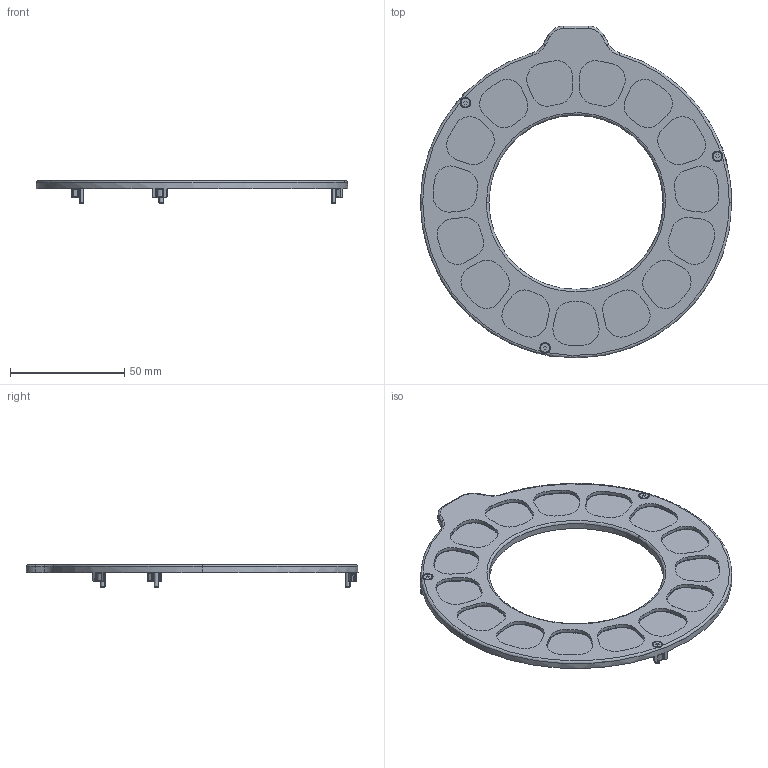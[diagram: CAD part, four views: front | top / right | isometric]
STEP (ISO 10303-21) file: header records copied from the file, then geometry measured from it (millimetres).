
FILE_DESCRIPTION (( 'STEP AP214' ), '1' );
FILE_NAME ('AC-MHPRING-xx.STEP', '2024-09-11T10:55:20', ( '' ), ( '' ), 'SwSTEP 2.0', 'SolidWorks 2021', '' );
FILE_SCHEMA (( 'AUTOMOTIVE_DESIGN' ));
Length unit declared in the file: millimetre
Products named in the file (3): AC-MHPRING-xx; M2-countersunk-10mm
Assembly tree (4 placements, depth 2):
  AC-MHPRING-xx
    AC-MHPRING-xx
    M2-countersunk-10mm  x3
Bounding box: 136 x 144.99 x 10 mm (x, y, z)
Volume: 14588.6 mm3; surface area: 27009 mm2
Topology: 4 solids, 4 shells, 900 faces, 2124 edges, 1256 vertices
Faces by surface type: bspline 310, cylinder 277, plane 157, cone 132, torus 24
Entity records: 32112 total; most frequent: CARTESIAN_POINT 13555, ORIENTED_EDGE 4070, DIRECTION 3792, EDGE_CURVE 2035, AXIS2_PLACEMENT_3D 1581, VERTEX_POINT 1212, CIRCLE 1018, EDGE_LOOP 913
